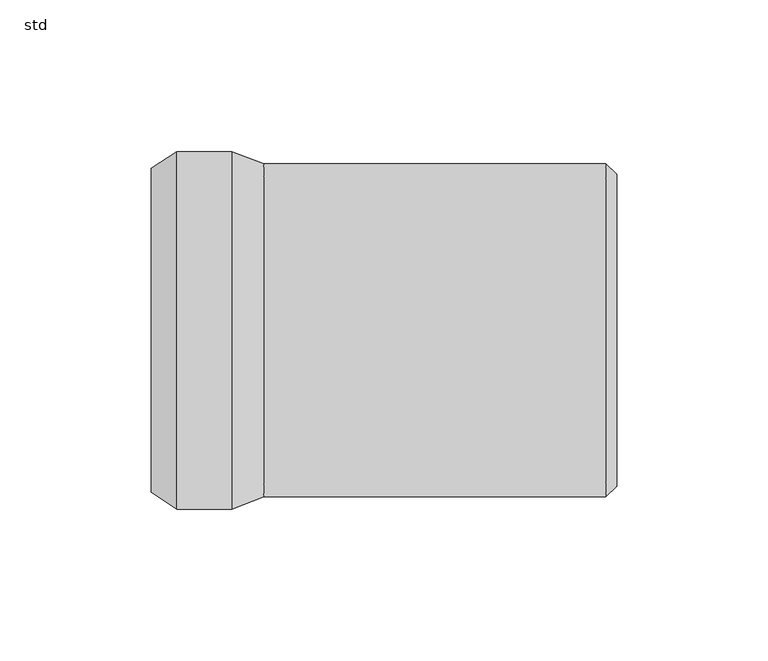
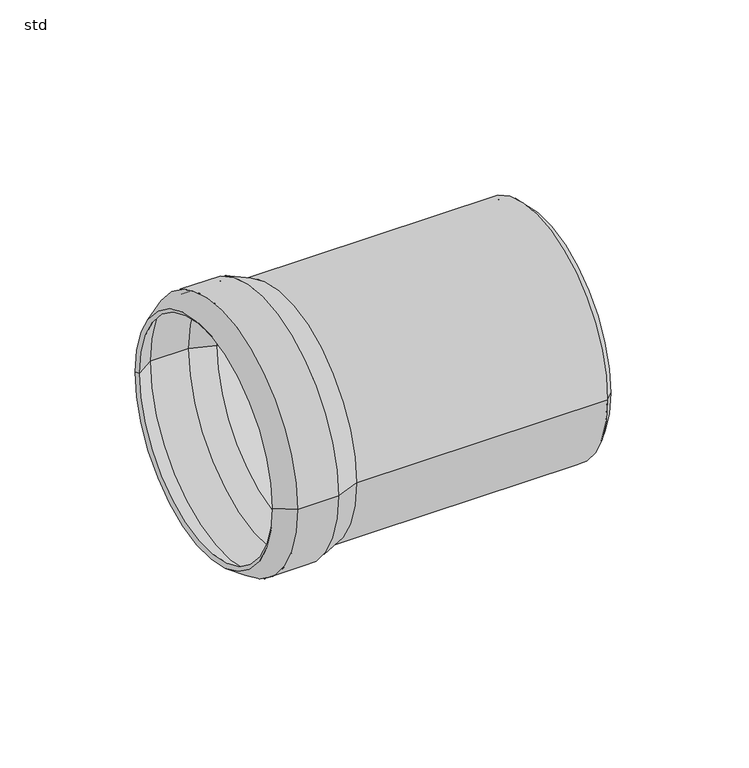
"""IFC4 building model written with IfcOpenShell, lengths in millimetres: pipe fitting geometry, PIF_ST_UN_GM-X pipe end_ACO : std."""

from ifc_helpers import new_model, si_unit, frame, origin, place, context, project, spatial, polyline, circle_curve, source, transform, mapped, element, save
from ifc_brep_helpers import plane_surface, cylinder_surface, revolved_surface, advanced_brep


def std_8a2dcd32(model_context):
    return source(origin(), model_context, "Body", "AdvancedBrep", [
        advanced_brep(
        [(-123.5, 59.0, 0.0), (-123.5, -59.0, 0.0), (-141.7, -59.0, 0.0), (-141.7, 59.0, 0.0), (-113.0, 55.0, 0.0), (-113.0, -55.0, 0.0), (-150.0, -53.5, 0.0), (-150.0, 53.5, 0.0), (0.0, 55.0, 0.0), (0.0, -55.0, 0.0), (3.5, 51.5, 0.0), (3.5, -51.5, 0.0), (0.0, 51.5, 0.0), (0.0, -51.5, 0.0), (-113.3680513, 53.0, 0.0), (-113.3680513, -53.0, 0.0), (0.0, -53.0, 0.0), (0.0, 53.0, 0.0), (-123.8680513, 57.0, 0.0), (-123.8680513, -57.0, 0.0), (-141.0974883, 57.0, 0.0), (-141.0974883, -57.0, 0.0), (-148.8952393, 51.8328156, 0.0), (-148.8952393, -51.8328156, 0.0)],
        [
            (0, 1, circle_curve(frame((-123.5, 0.0, 0.0), z_axis=(-1.0, 0.0, 0.0), x_axis=(0.0, -1.0, 0.0)), 59.0)),
            (1, 2),
            (2, 3, circle_curve(frame((-141.7, 0.0, 0.0), z_axis=(1.0, 0.0, 0.0), x_axis=(0.0, -1.0, 0.0)), 59.0)),
            (3, 0),
            (1, 0, circle_curve(frame((-123.5, 0.0, 0.0), z_axis=(-1.0, 0.0, 0.0), x_axis=(0.0, -1.0, 0.0)), 59.0)),
            (3, 2, circle_curve(frame((-141.7, 0.0, 0.0), z_axis=(1.0, 0.0, 0.0), x_axis=(0.0, -1.0, 0.0)), 59.0)),
            (4, 5, circle_curve(frame((-113.0, 0.0, 0.0), z_axis=(-1.0, 0.0, 0.0), x_axis=(0.0, -1.0, 0.0)), 55.0)),
            (5, 1),
            (0, 4),
            (5, 4, circle_curve(frame((-113.0, 0.0, 0.0), z_axis=(-1.0, 0.0, 0.0), x_axis=(0.0, -1.0, 0.0)), 55.0)),
            (2, 6),
            (6, 7, circle_curve(frame((-150.0, 0.0, 0.0), z_axis=(1.0, 0.0, 0.0), x_axis=(0.0, -1.0, 0.0)), 53.5)),
            (7, 3),
            (7, 6, circle_curve(frame((-150.0, 0.0, 0.0), z_axis=(1.0, 0.0, 0.0), x_axis=(0.0, -1.0, 0.0)), 53.5)),
            (8, 9, circle_curve(frame((0.0, 0.0, 0.0), z_axis=(-1.0, 0.0, 0.0), x_axis=(0.0, -1.0, 0.0)), 55.0)),
            (9, 5),
            (4, 8),
            (9, 8, circle_curve(frame((0.0, 0.0, 0.0), z_axis=(-1.0, 0.0, 0.0), x_axis=(0.0, -1.0, 0.0)), 55.0)),
            (10, 11, circle_curve(frame((3.5, 0.0, 0.0), z_axis=(-1.0, 0.0, 0.0), x_axis=(0.0, -1.0, 0.0)), 51.5)),
            (11, 9),
            (8, 10),
            (11, 10, circle_curve(frame((3.5, 0.0, 0.0), z_axis=(-1.0, 0.0, 0.0), x_axis=(0.0, -1.0, 0.0)), 51.5)),
            (12, 13, circle_curve(frame((0.0, 0.0, 0.0), z_axis=(-1.0, 0.0, 0.0), x_axis=(0.0, -1.0, 0.0)), 51.5)),
            (13, 11),
            (10, 12),
            (13, 12, circle_curve(frame((0.0, 0.0, 0.0), z_axis=(-1.0, 0.0, 0.0), x_axis=(0.0, -1.0, 0.0)), 51.5)),
            (14, 15, circle_curve(frame((-113.3680513, 0.0, 0.0), z_axis=(-1.0, 0.0, 0.0), x_axis=(0.0, -1.0, 0.0)), 53.0)),
            (15, 16),
            (16, 17, circle_curve(frame((0.0, 0.0, 0.0), z_axis=(1.0, 0.0, 0.0), x_axis=(0.0, -1.0, 0.0)), 53.0)),
            (17, 14),
            (15, 14, circle_curve(frame((-113.3680513, 0.0, 0.0), z_axis=(-1.0, 0.0, 0.0), x_axis=(0.0, -1.0, 0.0)), 53.0)),
            (17, 16, circle_curve(frame((0.0, 0.0, 0.0), z_axis=(1.0, 0.0, 0.0), x_axis=(0.0, -1.0, 0.0)), 53.0)),
            (18, 19, circle_curve(frame((-123.8680513, 0.0, 0.0), z_axis=(-1.0, 0.0, 0.0), x_axis=(0.0, -1.0, 0.0)), 57.0)),
            (19, 15),
            (14, 18),
            (19, 18, circle_curve(frame((-123.8680513, 0.0, 0.0), z_axis=(-1.0, 0.0, 0.0), x_axis=(0.0, -1.0, 0.0)), 57.0)),
            (20, 21, circle_curve(frame((-141.0974883, 0.0, 0.0), z_axis=(-1.0, 0.0, 0.0), x_axis=(0.0, -1.0, 0.0)), 57.0)),
            (21, 19),
            (18, 20),
            (21, 20, circle_curve(frame((-141.0974883, 0.0, 0.0), z_axis=(-1.0, 0.0, 0.0), x_axis=(0.0, -1.0, 0.0)), 57.0)),
            (22, 23, circle_curve(frame((-148.8952393, 0.0, 0.0), z_axis=(-1.0, 0.0, 0.0), x_axis=(0.0, -1.0, 0.0)), 51.8328156)),
            (23, 21),
            (20, 22),
            (23, 22, circle_curve(frame((-148.8952393, 0.0, 0.0), z_axis=(-1.0, 0.0, 0.0), x_axis=(0.0, -1.0, 0.0)), 51.8328156)),
            (6, 23),
            (22, 7),
            (16, 13),
            (12, 17),
        ],
        [
            cylinder_surface(frame((-146.6444117, 0.0, 0.0), z_axis=(1.0, 0.0, 0.0), x_axis=(0.0, -1.0, 0.0)), 59.0),
            revolved_surface(polyline([(-123.5, -59.0, 0.0), (-113.0, -55.0, 0.0)]), (-146.6444117, 0.0, 0.0), (1.0, 0.0, 0.0)),
            revolved_surface(polyline([(-150.0, -53.5, 0.0), (-141.7, -59.0, 0.0)]), (-146.6444117, 0.0, 0.0), (1.0, 0.0, 0.0)),
            cylinder_surface(frame((-146.6444117, 0.0, 0.0), z_axis=(1.0, 0.0, 0.0), x_axis=(0.0, -1.0, 0.0)), 55.0),
            revolved_surface(polyline([(0.0, -55.0, 0.0), (3.5, -51.5, 0.0)]), (-146.6444117, 0.0, 0.0), (1.0, 0.0, 0.0)),
            revolved_surface(polyline([(3.5, -51.5, 0.0), (0.0, -51.5, 0.0)]), (-146.6444117, 0.0, 0.0), (1.0, 0.0, 0.0)),
            revolved_surface(polyline([(0.0, -53.0, 0.0), (-113.3680513, -53.0, 0.0)]), (-146.6444117, 0.0, 0.0), (1.0, 0.0, 0.0)),
            revolved_surface(polyline([(-113.3680513, -53.0, 0.0), (-123.8680513, -57.0, 0.0)]), (-146.6444117, 0.0, 0.0), (1.0, 0.0, 0.0)),
            revolved_surface(polyline([(-123.8680513, -57.0, 0.0), (-141.0974883, -57.0, 0.0)]), (-146.6444117, 0.0, 0.0), (1.0, 0.0, 0.0)),
            revolved_surface(polyline([(-141.0974883, -57.0, 0.0), (-148.8952393, -51.8328156, 0.0)]), (-146.6444117, 0.0, 0.0), (1.0, 0.0, 0.0)),
            revolved_surface(polyline([(-148.8952393, -51.8328156, 0.0), (-150.0, -53.5, 0.0)]), (-146.6444117, 0.0, 0.0), (1.0, 0.0, 0.0)),
            plane_surface(frame((0.0, 0.0, 0.0), z_axis=(-1.0, 0.0, 0.0), x_axis=(0.0, -1.0, 0.0))),
        ],
        [
            (0, [[1, 2, 3, 4]]),
            (0, [[5, -4, 6, -2]]),
            (1, [[7, 8, -1, 9]]),
            (1, [[10, -9, -5, -8]]),
            (2, [[-3, 11, 12, 13]]),
            (2, [[-6, -13, 14, -11]]),
            (3, [[15, 16, -7, 17]]),
            (3, [[18, -17, -10, -16]]),
            (4, [[19, 20, -15, 21]]),
            (4, [[22, -21, -18, -20]]),
            (5, [[23, 24, -19, 25]]),
            (5, [[26, -25, -22, -24]]),
            (6, [[27, 28, 29, 30]]),
            (6, [[31, -30, 32, -28]]),
            (7, [[33, 34, -27, 35]]),
            (7, [[36, -35, -31, -34]]),
            (8, [[37, 38, -33, 39]]),
            (8, [[40, -39, -36, -38]]),
            (9, [[41, 42, -37, 43]]),
            (9, [[44, -43, -40, -42]]),
            (10, [[-12, 45, -41, 46]]),
            (10, [[-14, -46, -44, -45]]),
            (11, [[-29, 47, -23, 48]]),
            (11, [[-32, -48, -26, -47]]),
        ],
    ),
    ])


if __name__ == "__main__":
    model = new_model("IFC4")
    model_context = context("Model", 3, world=origin())
    ifc_project = project(units=[si_unit("LENGTHUNIT", "METRE", prefix="MILLI")], contexts=[model_context])
    site = spatial("IfcSite", under=ifc_project)
    building = spatial("IfcBuilding", under=site)
    placement = place(None, origin())
    std_shape = std_8a2dcd32(model_context)
    element("IfcPipeFitting", 1, ObjectType="PIF_ST_UN_GM-X pipe end_ACO : std", at=placement, inside=building, context=model_context, shape_type="MappedRepresentation", body=[
        mapped(std_shape, transform((0.0, 0.0, 0.0), x_axis=(1.0, 0.0, 0.0), y_axis=(0.0, 1.0, 0.0), z_axis=(0.0, 0.0, 1.0))),
    ])
    save(model, "model.ifc")
